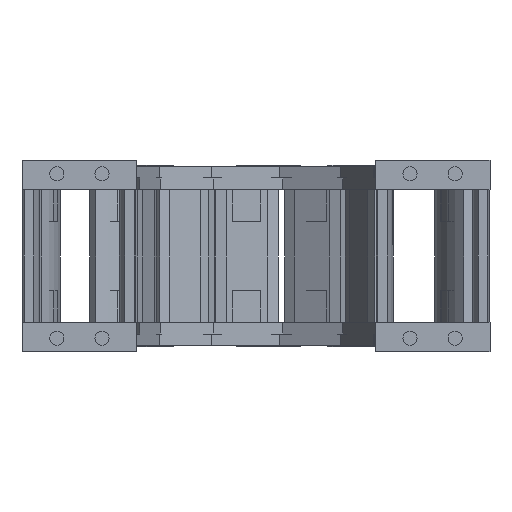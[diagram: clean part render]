
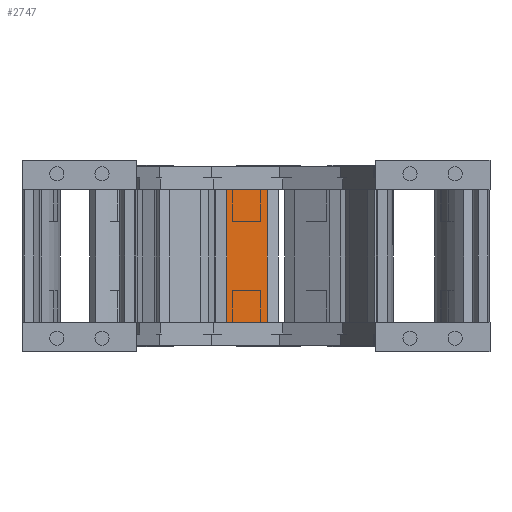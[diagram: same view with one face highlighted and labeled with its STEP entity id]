
A CAD part, left-side view. The second image highlights one B-rep face of the part: STEP entity #2747.
In plain terms, the highlighted planar face has unit normal (-0.996, -0.093, 0) as drawn and (0, -1, 0) by its records, which use the part's own axes.
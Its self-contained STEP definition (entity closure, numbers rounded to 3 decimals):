
#2634=DIRECTION('',(0.,0.,-1.));
#2635=VECTOR('',#2634,75.1);
#2636=CARTESIAN_POINT('',(-11.5,-61.,37.5));
#2637=LINE('',#2636,#2635);
#2651=DIRECTION('',(1.,0.,0.));
#2652=VECTOR('',#2651,23.);
#2653=CARTESIAN_POINT('',(-11.5,-61.,37.5));
#2654=LINE('',#2653,#2652);
#2684=DIRECTION('',(-1.,0.,0.));
#2685=VECTOR('',#2684,23.);
#2686=CARTESIAN_POINT('',(11.5,-61.,-37.6));
#2687=LINE('',#2686,#2685);
#2700=DIRECTION('',(0.,0.,-1.));
#2701=VECTOR('',#2700,75.1);
#2702=CARTESIAN_POINT('',(11.5,-61.,37.5));
#2703=LINE('',#2702,#2701);
#2714=CARTESIAN_POINT('',(11.5,-61.,-37.6));
#2715=VERTEX_POINT('',#2714);
#2716=CARTESIAN_POINT('',(-11.5,-61.,-37.6));
#2717=VERTEX_POINT('',#2716);
#2726=CARTESIAN_POINT('',(11.5,-61.,37.5));
#2727=VERTEX_POINT('',#2726);
#2730=CARTESIAN_POINT('',(-11.5,-61.,37.5));
#2731=VERTEX_POINT('',#2730);
#2732=CARTESIAN_POINT('',(15.5,-61.,-37.6));
#2733=DIRECTION('',(0.,1.,0.));
#2734=DIRECTION('',(-1.,0.,0.));
#2735=AXIS2_PLACEMENT_3D('',#2732,#2733,#2734);
#2736=PLANE('',#2735);
#2738=ORIENTED_EDGE('',*,*,#2737,.F.);
#2740=ORIENTED_EDGE('',*,*,#2739,.T.);
#2742=ORIENTED_EDGE('',*,*,#2741,.T.);
#2744=ORIENTED_EDGE('',*,*,#2743,.T.);
#2745=EDGE_LOOP('',(#2738,#2740,#2742,#2744));
#2746=FACE_OUTER_BOUND('',#2745,.F.);
#2747=ADVANCED_FACE('',(#2746),#2736,.F.);
#2737=EDGE_CURVE('',#2731,#2717,#2637,.T.);
#2739=EDGE_CURVE('',#2731,#2727,#2654,.T.);
#2741=EDGE_CURVE('',#2727,#2715,#2703,.T.);
#2743=EDGE_CURVE('',#2715,#2717,#2687,.T.);
